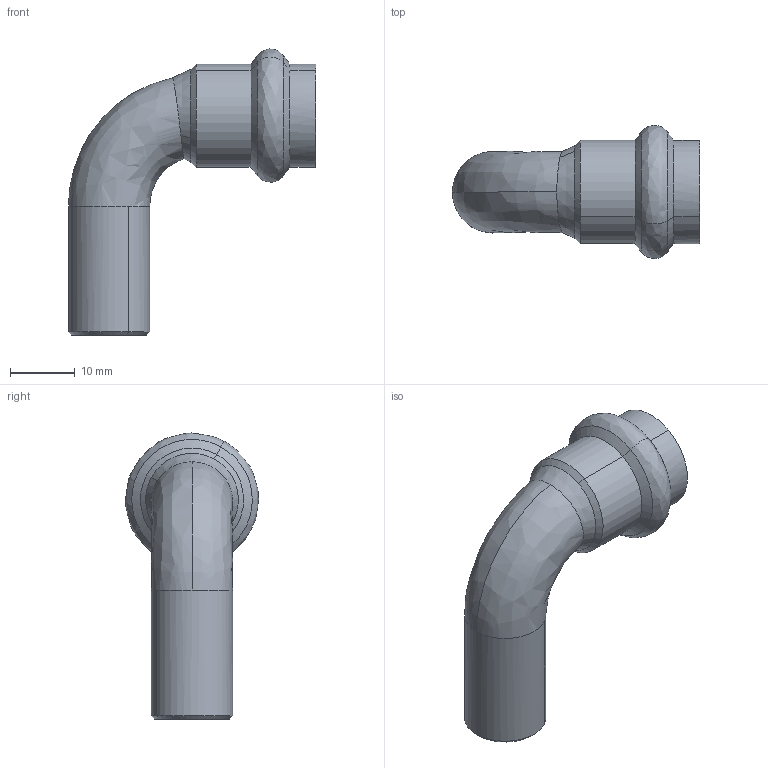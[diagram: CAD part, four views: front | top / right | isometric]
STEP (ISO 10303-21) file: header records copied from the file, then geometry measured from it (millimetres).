
FILE_DESCRIPTION(('STEP AP214'),'1');
FILE_NAME('pim0004434.stp','2015-04-30T05:16:31',('Cad-Pim'),('TransMagic, Inc.'),'TMR11sp0','TransMagic R11',' ');
FILE_SCHEMA(('AUTOMOTIVE_DESIGN'));
Length unit declared in the file: millimetre
Products named in the file (1): pim0004434
Bounding box: 38.3 x 20.68 x 44.34 mm (x, y, z)
Volume: 7263.5 mm3; surface area: 3807.6 mm2
Topology: 1 solids, 1 shells, 25 faces, 66 edges, 44 vertices
Faces by surface type: cone 10, cylinder 8, bspline 7
Entity records: 1304 total; most frequent: CARTESIAN_POINT 555, ORIENTED_EDGE 132, DIRECTION 88, EDGE_CURVE 66, VERTEX_POINT 44, AXIS2_PLACEMENT_3D 35, STYLED_ITEM 26, PRESENTATION_STYLE_ASSIGNMENT 26
